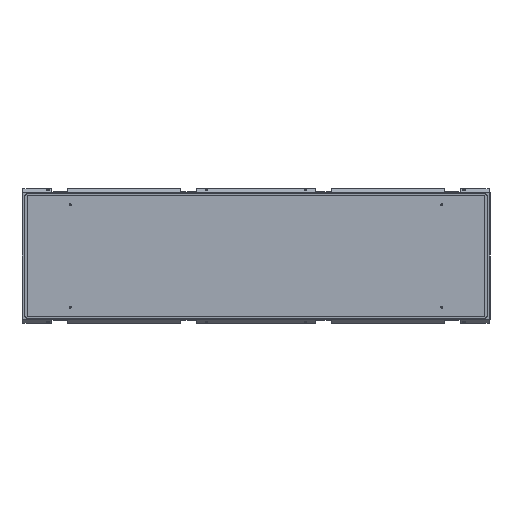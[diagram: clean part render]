
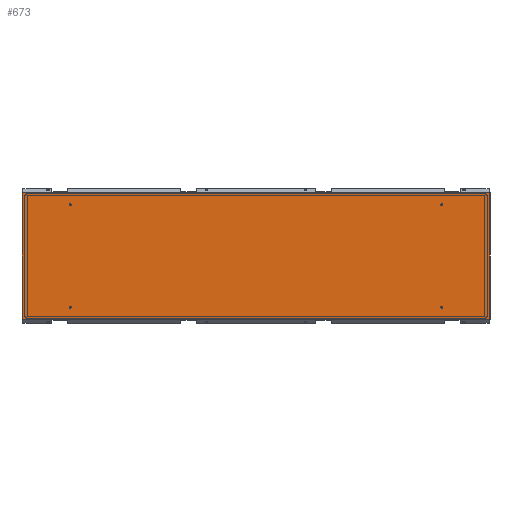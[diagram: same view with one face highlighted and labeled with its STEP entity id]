
A CAD part, left-side view. The second image highlights one B-rep face of the part: STEP entity #673.
In plain terms, the highlighted planar face has unit normal (-1, 0, 0) as drawn and (0, 0, 1) by its records, which use the part's own axes.
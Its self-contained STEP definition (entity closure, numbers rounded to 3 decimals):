
#359 = LINE ( 'NONE', #4292, #5775 ) ;
#579 = EDGE_CURVE ( 'NONE', #3026, #8275, #3310, .T. ) ;
#673 = ADVANCED_FACE ( 'NONE', ( #8306 ), #6373, .F. ) ;
#918 = DIRECTION ( 'NONE',  ( 0., 0., -1. ) ) ;
#1143 = DIRECTION ( 'NONE',  ( 0., 1., 0. ) ) ;
#1673 = VECTOR ( 'NONE', #2004, 1000. ) ;
#1678 = VECTOR ( 'NONE', #2607, 1000. ) ;
#2004 = DIRECTION ( 'NONE',  ( -1., 0., 0. ) ) ;
#2225 = VERTEX_POINT ( 'NONE', #6783 ) ;
#2267 = DIRECTION ( 'NONE',  ( -1., 0., 0. ) ) ;
#2607 = DIRECTION ( 'NONE',  ( 1., 0., 0. ) ) ;
#2778 = ORIENTED_EDGE ( 'NONE', *, *, #8453, .T. ) ;
#3003 = ORIENTED_EDGE ( 'NONE', *, *, #6440, .T. ) ;
#3026 = VERTEX_POINT ( 'NONE', #8106 ) ;
#3228 = CARTESIAN_POINT ( 'NONE',  ( -262.75, 970.5, 0. ) ) ;
#3310 = LINE ( 'NONE', #7116, #6477 ) ;
#3926 = LINE ( 'NONE', #7938, #1678 ) ;
#4238 = CARTESIAN_POINT ( 'NONE',  ( 0., 0., 0. ) ) ;
#4292 = CARTESIAN_POINT ( 'NONE',  ( -262.75, -970.5, 0. ) ) ;
#4655 = AXIS2_PLACEMENT_3D ( 'NONE', #4238, #918, #2267 ) ;
#5657 = DIRECTION ( 'NONE',  ( 0., -1., 0. ) ) ;
#5775 = VECTOR ( 'NONE', #5657, 1000. ) ;
#6056 = EDGE_LOOP ( 'NONE', ( #7966, #6201, #3003, #2778 ) ) ;
#6201 = ORIENTED_EDGE ( 'NONE', *, *, #8128, .T. ) ;
#6373 = PLANE ( 'NONE',  #4655 ) ;
#6440 = EDGE_CURVE ( 'NONE', #2225, #7401, #359, .T. ) ;
#6477 = VECTOR ( 'NONE', #1143, 1000. ) ;
#6725 = CARTESIAN_POINT ( 'NONE',  ( 262.75, 970.5, 0. ) ) ;
#6783 = CARTESIAN_POINT ( 'NONE',  ( -262.75, 970.5, 0. ) ) ;
#7116 = CARTESIAN_POINT ( 'NONE',  ( 262.75, -970.5, 0. ) ) ;
#7401 = VERTEX_POINT ( 'NONE', #7789 ) ;
#7789 = CARTESIAN_POINT ( 'NONE',  ( -262.75, -970.5, 0. ) ) ;
#7870 = LINE ( 'NONE', #3228, #1673 ) ;
#7938 = CARTESIAN_POINT ( 'NONE',  ( -262.75, -970.5, 0. ) ) ;
#7966 = ORIENTED_EDGE ( 'NONE', *, *, #579, .T. ) ;
#8106 = CARTESIAN_POINT ( 'NONE',  ( 262.75, -970.5, 0. ) ) ;
#8128 = EDGE_CURVE ( 'NONE', #8275, #2225, #7870, .T. ) ;
#8275 = VERTEX_POINT ( 'NONE', #6725 ) ;
#8306 = FACE_OUTER_BOUND ( 'NONE', #6056, .T. ) ;
#8453 = EDGE_CURVE ( 'NONE', #7401, #3026, #3926, .T. ) ;
